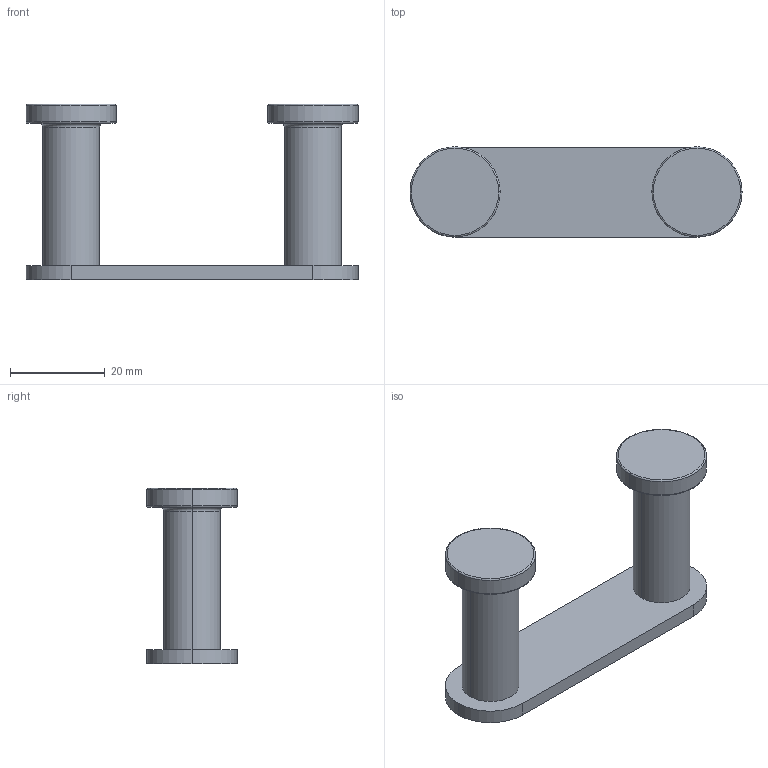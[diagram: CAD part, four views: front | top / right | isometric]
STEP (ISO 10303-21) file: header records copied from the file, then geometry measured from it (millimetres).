
FILE_DESCRIPTION (( 'STEP AP203' ), '1' );
FILE_NAME ('28032A-00-00.STEP', '2022-07-07T05:57:41', ( 'Windows User' ), ( 'P R C' ), 'SwSTEP 2.0', 'SolidWorks 2015', '' );
FILE_SCHEMA (( 'CONFIG_CONTROL_DESIGN' ));
Length unit declared in the file: millimetre
Products named in the file (1): 28032A-00-00
Bounding box: 70 x 19 x 37 mm (x, y, z)
Surface area: 6615.2 mm2 (no closed solid volume)
Topology: 0 solids, 5 shells, 39 faces, 87 edges, 54 vertices
Faces by surface type: cylinder 15, torus 12, plane 8, cone 4
Entity records: 1180 total; most frequent: DIRECTION 229, CARTESIAN_POINT 181, ORIENTED_EDGE 162, AXIS2_PLACEMENT_3D 102, EDGE_CURVE 87, CIRCLE 62, VERTEX_POINT 54, EDGE_LOOP 45
